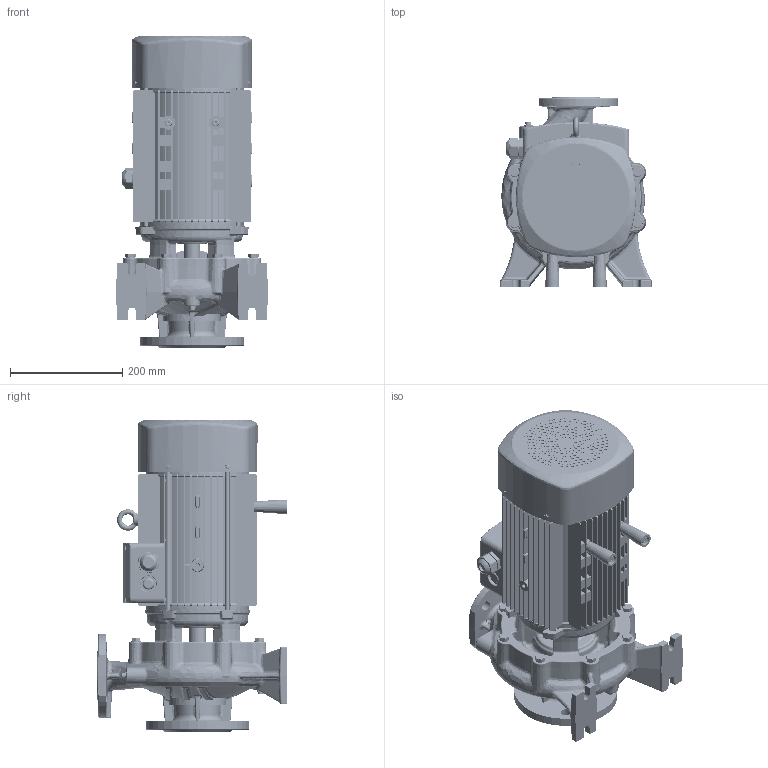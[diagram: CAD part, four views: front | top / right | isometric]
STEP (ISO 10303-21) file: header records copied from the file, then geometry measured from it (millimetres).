
FILE_DESCRIPTION (( 'STEP AP203' ), '1' );
FILE_NAME ('TST40-200-5.5 7.5 安装尺寸图.STEP', '2026-04-27T09:24:59', ( '微软用户' ), ( '微软中国' ), 'SwSTEP 2.0', 'SolidWorks 2020', '' );
FILE_SCHEMA (( 'CONFIG_CONTROL_DESIGN' ));
Length unit declared in the file: millimetre
Products named in the file (1): TST40-200-5.5 7.5 假蚾喜渡芞
Bounding box: 271.18 x 340.05 x 555.9 mm (x, y, z)
Volume: 17636563.3 mm3; surface area: 1179475.4 mm2
Topology: 1 solids, 18 shells, 4635 faces, 11422 edges, 6989 vertices
Faces by surface type: plane 1306, cylinder 1277, bspline 1178, cone 465, torus 276, sphere 133
Entity records: 198558 total; most frequent: CARTESIAN_POINT 98658, ORIENTED_EDGE 22560, DIRECTION 18650, EDGE_CURVE 11280, AXIS2_PLACEMENT_3D 7644, VERTEX_POINT 6984, EDGE_LOOP 5024, ADVANCED_FACE 4635
